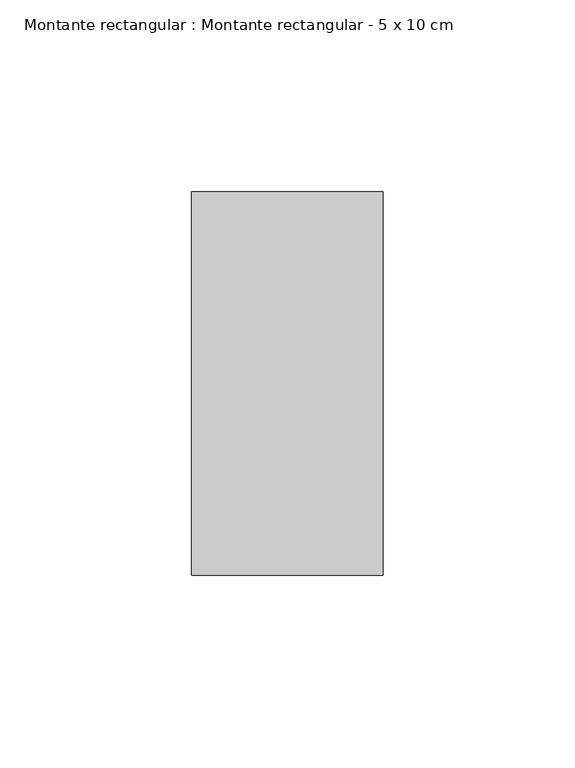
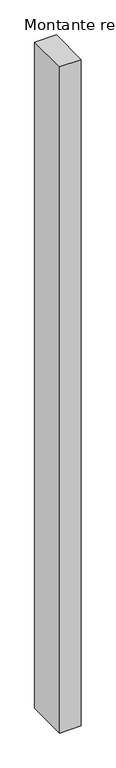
"""IFC4 building model written with IfcOpenShell, lengths in millimetres: member geometry, Montante rectangular : Montante rectangular - 5 x 10 cm."""

import ifcopenshell
import ifcopenshell.guid

model = None  # the IFC model being written
_history = None  # IfcOwnerHistory: only IFC2X3 demands one
_inside = {}  # id of a spatial element -> (the spatial element, [elements in it])
_under = {}  # id of a project, library or spatial element -> (it, [spatial elements below it])
_declared = {}  # id of a project -> (the project, [libraries it declares])
_typed = {}  # id of a type object -> (the type object, [elements of that type])
_made_of = {}  # id of a material, layer set ... -> (it, [elements and type objects made of it])


def new_model(schema):
    """Start an empty IFC model of exactly this schema.

    Asked for "IFC4X3", IfcOpenShell would pick the latest addendum, in which some entities
    have other attributes; the version numbers below select the first issue.
    IFC2X3 requires an IfcOwnerHistory on every rooted entity: one is made here for all.
    """
    global model, _history
    if schema == "IFC4X3":
        model = ifcopenshell.file(schema_version=(4, 3, 0, 0))
    else:
        model = ifcopenshell.file(schema=schema)
    _inside.clear()
    _under.clear()
    _declared.clear()
    _typed.clear()
    _made_of.clear()
    _history = None
    if model.schema == "IFC2X3":
        org = make("IfcOrganization", Name="unknown")
        user = make(
            "IfcPersonAndOrganization",
            ThePerson=make("IfcPerson", FamilyName="unknown"),
            TheOrganization=org,
        )
        app = make(
            "IfcApplication",
            ApplicationDeveloper=org,
            Version="unknown",
            ApplicationFullName="unknown",
            ApplicationIdentifier="unknown",
        )
        _history = make(
            "IfcOwnerHistory",
            OwningUser=user,
            OwningApplication=app,
            ChangeAction="ADDED",
            CreationDate=0,
        )
    return model


def make(cls, **values):
    """One entity of the class cls with the attributes given. An attribute that is None is left unset."""
    return model.create_entity(
        cls, **{name: value for name, value in values.items() if value is not None}
    )


def rooted(cls, **values):
    """An entity with a GlobalId (a new one), such as an element, a storey or a relation."""
    return make(cls, GlobalId=ifcopenshell.guid.new(), OwnerHistory=_history, **values)


def si_unit(unit_type, name, prefix=None):
    """IfcSIUnit, for example si_unit("LENGTHUNIT", "METRE", prefix="MILLI")."""
    return make("IfcSIUnit", UnitType=unit_type, Prefix=prefix, Name=name)


def assignment(units):
    """IfcUnitAssignment: the units of a project."""
    return None if units is None else make("IfcUnitAssignment", Units=units)


def point(xyz):
    """IfcCartesianPoint."""
    return None if xyz is None else make("IfcCartesianPoint", Coordinates=xyz)


def direction(xyz):
    """IfcDirection."""
    return None if xyz is None else make("IfcDirection", DirectionRatios=xyz)


def frame(location, z_axis=None, x_axis=None):
    """IfcAxis2Placement3D, a coordinate frame: its origin and axes. An axis left out is left unset."""
    return make(
        "IfcAxis2Placement3D",
        Location=point(location),
        Axis=direction(z_axis),
        RefDirection=direction(x_axis),
    )


def origin():
    """The frame at (0, 0, 0) with its axes left unset."""
    return frame((0.0, 0.0, 0.0))


def place(relative_to, where):
    """IfcLocalPlacement: puts the frame where relative to a parent placement (None: the world)."""
    return make(
        "IfcLocalPlacement", PlacementRelTo=relative_to, RelativePlacement=where
    )


def context(
    kind, dimensions, precision=None, world=None, true_north=None, identifier=None
):
    """IfcGeometricRepresentationContext, for example the 3D "Model" context."""
    return make(
        "IfcGeometricRepresentationContext",
        ContextIdentifier=identifier,
        ContextType=kind,
        CoordinateSpaceDimension=dimensions,
        Precision=precision,
        WorldCoordinateSystem=world,
        TrueNorth=true_north,
    )


def project(units=None, contexts=None):
    """IfcProject with its units and contexts."""
    return rooted(
        "IfcProject",
        Name="project",
        RepresentationContexts=contexts,
        UnitsInContext=assignment(units),
    )


def spatial(cls, under=None, at=None, **own):
    """A site, building, storey or space (cls), placed at a placement, below another one or the project."""
    s = rooted(cls, ObjectPlacement=at, **own)
    if under is not None:
        _under.setdefault(under.id(), (under, []))[1].append(s)
    return s


def polyline(points):
    """IfcPolyline through the points."""
    return make("IfcPolyline", Points=[point(p) for p in points])


def outline(outer, holes=None, kind="AREA"):
    """IfcArbitraryClosedProfileDef: a profile drawn as a closed curve; with holes, ...WithVoids."""
    if holes is None:
        return make("IfcArbitraryClosedProfileDef", ProfileType=kind, OuterCurve=outer)
    return make(
        "IfcArbitraryProfileDefWithVoids",
        ProfileType=kind,
        OuterCurve=outer,
        InnerCurves=holes,
    )


def extrude(swept, where, along, depth):
    """IfcExtrudedAreaSolid: the profile swept, set in the frame where, extruded along a direction by depth."""
    return make(
        "IfcExtrudedAreaSolid",
        SweptArea=swept,
        Position=where,
        ExtrudedDirection=direction(along),
        Depth=depth,
    )


def shape(context_of_items, identifier, shape_type, items):
    """IfcShapeRepresentation: the items that make up one representation, for example the "Body"."""
    return make(
        "IfcShapeRepresentation",
        ContextOfItems=context_of_items,
        RepresentationIdentifier=identifier,
        RepresentationType=shape_type,
        Items=items,
    )


def source(mapping_origin, context_of_items, identifier, shape_type, items):
    """IfcRepresentationMap: a shape defined once, which mapped items show again and again."""
    return make(
        "IfcRepresentationMap",
        MappingOrigin=mapping_origin,
        MappedRepresentation=shape(context_of_items, identifier, shape_type, items),
    )


def transform(
    local_origin,
    x_axis=None,
    y_axis=None,
    z_axis=None,
    scale=None,
    scale2=None,
    scale3=None,
    uniform=True,
):
    """IfcCartesianTransformationOperator3D, or its non-uniform kind. x_axis, y_axis, z_axis: its Axis1, 2, 3."""
    if uniform:
        return make(
            "IfcCartesianTransformationOperator3D",
            Axis1=direction(x_axis),
            Axis2=direction(y_axis),
            LocalOrigin=point(local_origin),
            Scale=scale,
            Axis3=direction(z_axis),
        )
    return make(
        "IfcCartesianTransformationOperator3DnonUniform",
        Axis1=direction(x_axis),
        Axis2=direction(y_axis),
        LocalOrigin=point(local_origin),
        Scale=scale,
        Axis3=direction(z_axis),
        Scale2=scale2,
        Scale3=scale3,
    )


def mapped(mapping_source, mapping_target):
    """IfcMappedItem: shows the shape of a source again, moved by a transform."""
    return make(
        "IfcMappedItem", MappingSource=mapping_source, MappingTarget=mapping_target
    )


def made_of(thing, what):
    """Note that an element or type object is made of a material, layer set ...; save() writes the relation."""
    if what is not None:
        _made_of.setdefault(what.id(), (what, []))[1].append(thing)
    return thing


def element(
    cls,
    number,
    at=None,
    inside=None,
    cuts=None,
    type_object=None,
    material=None,
    context=None,
    identifier="Body",
    shape_type=None,
    held_by="IfcProductDefinitionShape",
    body=None,
    shapes=None,
    **own,
):
    """One element of the class cls, such as IfcWall. Its Tag is "e" and its number.

    at: its placement. inside: the storey or other place that contains it. cuts: it is an
    opening in that element (IfcRelVoidsElement). A single representation is given by context,
    identifier, shape_type and body (its items); several are given by shapes. held_by: the class
    of the entity that holds the representations. save() writes the other relations.
    """
    e = rooted(cls, Tag="e%d" % number, ObjectPlacement=at, **own)
    if body is not None:
        shapes = [shape(context, identifier, shape_type, body)]
    if shapes is not None:
        e.Representation = make(held_by, Representations=shapes)
    if inside is not None:
        _inside.setdefault(inside.id(), (inside, []))[1].append(e)
    if cuts is not None:
        rooted(
            "IfcRelVoidsElement", RelatingBuildingElement=cuts, RelatedOpeningElement=e
        )
    if type_object is not None:
        _typed.setdefault(type_object.id(), (type_object, []))[1].append(e)
    return made_of(e, material)


def aggregate(whole, parts):
    """IfcRelAggregates: a whole, such as a stair, and the parts it consists of."""
    return rooted("IfcRelAggregates", RelatingObject=whole, RelatedObjects=parts)


def save(model, path):
    """Write the relations noted so far, then the file.

    IfcRelAggregates (storeys below a building ...), IfcRelContainedInSpatialStructure (elements
    in a storey), IfcRelDefinesByType, IfcRelAssociatesMaterial and IfcRelDeclares: one each for
    every whole, place, type object, material and project.
    """
    for whole, parts in _under.values():
        aggregate(whole, parts)
    for where, things in _inside.values():
        rooted(
            "IfcRelContainedInSpatialStructure",
            RelatedElements=things,
            RelatingStructure=where,
        )
    for kind, things in _typed.values():
        rooted("IfcRelDefinesByType", RelatedObjects=things, RelatingType=kind)
    for what, things in _made_of.values():
        rooted("IfcRelAssociatesMaterial", RelatedObjects=things, RelatingMaterial=what)
    for by, libraries in _declared.values():
        rooted("IfcRelDeclares", RelatingContext=by, RelatedDefinitions=libraries)
    model.write(path)


def montante_rectangular_montante_rectangular_5_x_10_cm_dcdff143(model_context):
    return source(origin(), model_context, "Body", "SweptSolid", [
        extrude(outline(polyline([(25.0, 50.0), (25.0, -50.0), (-25.0, -50.0), (-25.0, 50.0), (25.0, 50.0)])), frame((0.0, 0.0, -1630.0), z_axis=(0.0, 0.0, 1.0), x_axis=(1.0, 0.0, 0.0)), (0.0, 0.0, 1.0), 1630.0),
    ])


if __name__ == "__main__":
    model = new_model("IFC4")
    model_context = context("Model", 3, world=origin())
    ifc_project = project(units=[si_unit("LENGTHUNIT", "METRE", prefix="MILLI")], contexts=[model_context])
    site = spatial("IfcSite", under=ifc_project)
    building = spatial("IfcBuilding", under=site)
    placement = place(None, origin())
    montante_rectangular_montante_rectangular_5_x_10_cm_shape = montante_rectangular_montante_rectangular_5_x_10_cm_dcdff143(model_context)
    element("IfcMember", 1, ObjectType="Montante rectangular : Montante rectangular - 5 x 10 cm", at=placement, inside=building, context=model_context, shape_type="MappedRepresentation", body=[
        mapped(montante_rectangular_montante_rectangular_5_x_10_cm_shape, transform((0.0, 0.0, 0.0), x_axis=(1.0, 0.0, 0.0), y_axis=(0.0, 1.0, 0.0), z_axis=(0.0, 0.0, 1.0))),
    ])
    save(model, "model.ifc")
